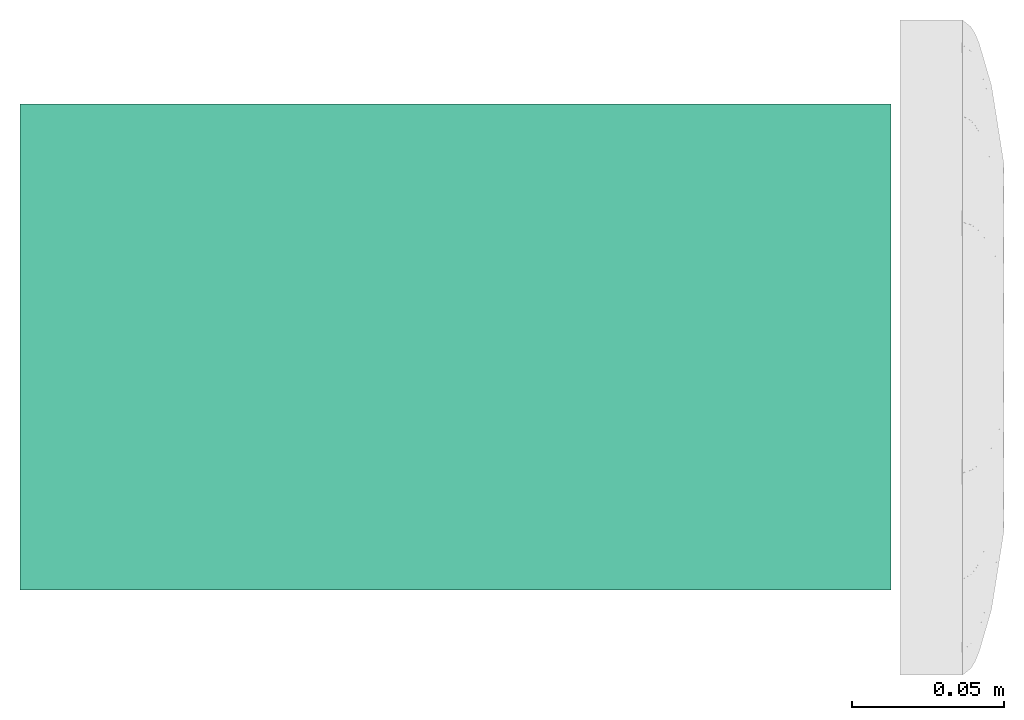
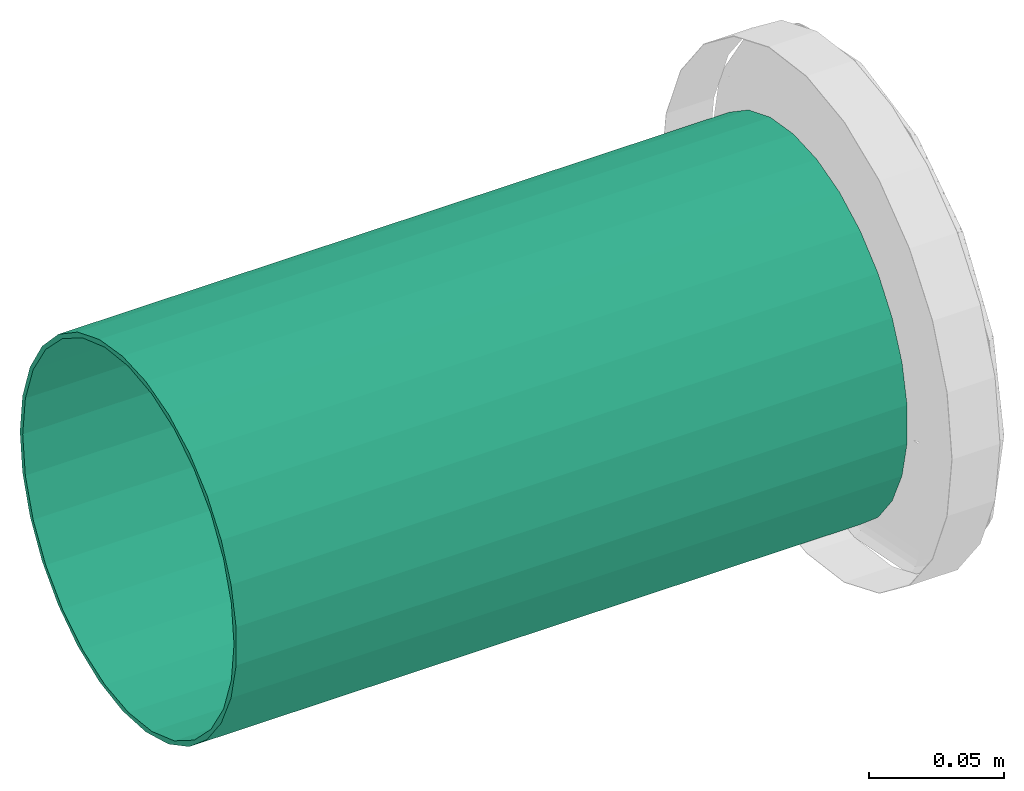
# One storey, incomplete: 1 flow segment.
"""IFC2X3 building model written with IfcOpenShell, lengths in millimetres."""

from ifc_helpers import new_model, entity, si_unit, converted_unit, derived_unit, direction, frame, origin_with_axes, origin_2d_with_axis, place, context, subcontext, project, spatial, hollow_circle, extrude, source, transform, mapped, type_object, element, save


model = new_model("IFC2X3")

# Units and contexts
model_context = context("Model", 3, precision=0.01, world=frame((0.0, 4.29681676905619e-09, 0.0)), true_north=direction((6.12323399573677e-17, 1.0)))
plan_context = context("Plan", 3, precision=0.01, world=frame((0.0, 4.29681676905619e-09, 0.0)), true_north=direction((6.12323399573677e-17, 1.0)))
body_context = subcontext(model_context, "Body", "Model", "MODEL_VIEW")
ifc_project = project(units=[converted_unit("PLANEANGLEUNIT", "DEGREE", entity("IfcPositiveLengthMeasure", 0.0174532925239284), si_unit("PLANEANGLEUNIT", "RADIAN"), dimensions=[0, 0, 0, 0, 0, 0, 0]), si_unit("AREAUNIT", "SQUARE_METRE"), si_unit("LENGTHUNIT", "METRE", prefix="MILLI"), si_unit("MASSUNIT", "GRAM", prefix="KILO"), si_unit("POWERUNIT", "WATT"), si_unit("PRESSUREUNIT", "PASCAL", prefix="KILO"), si_unit("FORCEUNIT", "NEWTON", prefix="KILO"), si_unit("ELECTRICVOLTAGEUNIT", "VOLT"), si_unit("ELECTRICCURRENTUNIT", "AMPERE"), si_unit("THERMODYNAMICTEMPERATUREUNIT", "DEGREE_CELSIUS"), si_unit("TIMEUNIT", "SECOND"), si_unit("VOLUMEUNIT", "CUBIC_METRE"), derived_unit("LINEARVELOCITYUNIT", [(si_unit("LENGTHUNIT", "METRE"), 1), (si_unit("TIMEUNIT", "SECOND"), -1)]), derived_unit("VOLUMETRICFLOWRATEUNIT", [(si_unit("VOLUMEUNIT", "CUBIC_METRE"), 1), (si_unit("TIMEUNIT", "SECOND"), -1)]), derived_unit("THERMALTRANSMITTANCEUNIT", [(si_unit("POWERUNIT", "WATT"), 1), (si_unit("THERMODYNAMICTEMPERATUREUNIT", "KELVIN"), -1), (si_unit("AREAUNIT", "SQUARE_METRE"), -1)]), derived_unit("SOUNDPRESSUREUNIT", [(si_unit("PRESSUREUNIT", "PASCAL"), 1)])], contexts=[model_context, plan_context])

# Site, building, storey
site_placement = place(None, frame((0.0, -4.29681676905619e-09, 0.0), z_axis=(0.0, 0.0, 1.0), x_axis=(1.0, 0.0, 0.0)))
site = spatial("IfcSite", under=ifc_project, at=site_placement, Name="ENGM", CompositionType="ELEMENT")
building_placement = place(site_placement, frame((0.0, 4.29681676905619e-09, 0.0), z_axis=(0.0, 0.0, 1.0), x_axis=(1.0, 0.0, 0.0)))
building = spatial("IfcBuilding", under=site, at=building_placement, Name="TH", CompositionType="ELEMENT")
storey_placement = place(building_placement, frame((0.0, 0.0, 210200.0), z_axis=(0.0, 0.0, 1.0), x_axis=(1.0, 0.0, 0.0)))
storey = spatial("IfcBuildingStorey", under=building, at=storey_placement, Name="Nivå F - 0,7 m", CompositionType="ELEMENT", Elevation=210200.0)

# Flow segment
duct_segment_type = type_object("IfcDuctSegmentType", Name="Sirkulær kanal", PredefinedType="RIGIDSEGMENT")
shared_shape = source(origin_with_axes(), body_context, "Body", "SweptSolid", [
    extrude(hollow_circle(Radius=80.0, WallThickness=2.0, at=origin_2d_with_axis()), frame((0.0, 0.0, 0.0), z_axis=(1.0, 0.0, 0.0), x_axis=(0.0, 1.0, 0.0)), (0.0, 0.0, 1.0), 286.0),
])
flow_segment_placement = place(storey_placement, frame((1115885.96076, 464310.70556, 2440.0), z_axis=(0.0, 0.0, 1.0), x_axis=(1.0, 0.0, 0.0)))
element("IfcFlowSegment", 1, at=flow_segment_placement, inside=storey, type_object=duct_segment_type, Name="Sirkulær kanal, forsinket stål", context=body_context, shape_type="MappedRepresentation", body=[
    mapped(shared_shape, transform((0.0, 0.0, 0.0), scale=1.0)),
])

save(model, "model.ifc")
